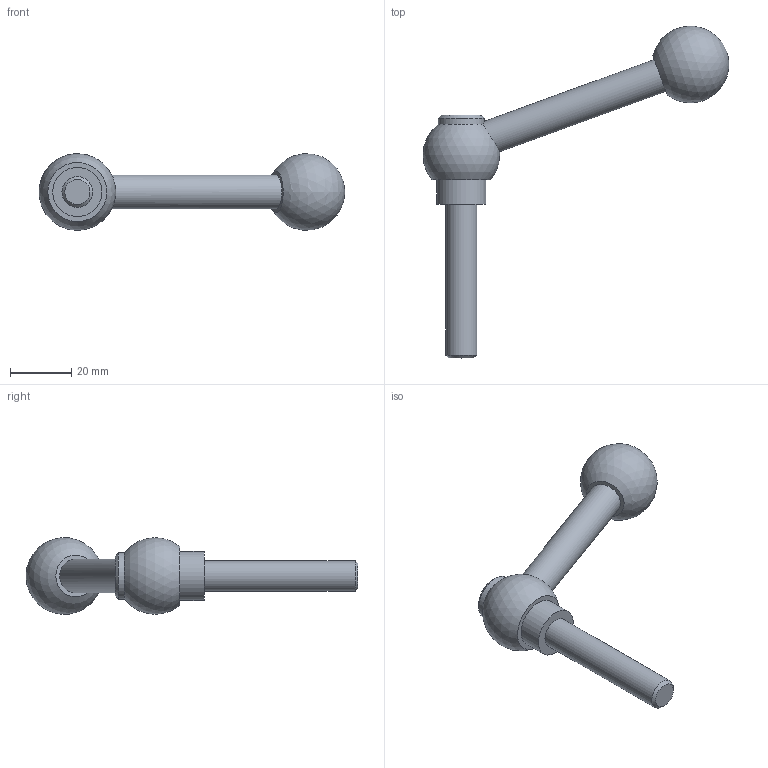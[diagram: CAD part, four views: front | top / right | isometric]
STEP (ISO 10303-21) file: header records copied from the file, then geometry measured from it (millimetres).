
FILE_DESCRIPTION( ( 'STEP AP203' ), '1' );
FILE_NAME( 'C:/Temp/Ganter_Step_05_03_2020/data/2_1/gn_6337_3/gn_6337_3_ms/gn_6337_3_ms_n/Adjustable clamping lever with bolt GN 6337.3-25-M10-50-N.stp', '2020-03-05T11:41:19', ( 'License CC BY-ND 4.0' ), ( 'CADENAS' ), ' ', 'PARTsolutions', ' ' );
FILE_SCHEMA( ( 'CONFIG_CONTROL_DESIGN' ) );
Length unit declared in the file: millimetre
Products named in the file (1): _Adjustable clamping lever with bolt GN 6337.3-25-M10-50-N
Bounding box: 99.42 x 107.98 x 25 mm (x, y, z)
Volume: 26821.3 mm3; surface area: 7723.9 mm2
Topology: 1 solids, 1 shells, 13 faces, 27 edges, 18 vertices
Faces by surface type: plane 5, cylinder 4, cone 2, sphere 2
Full cylindrical faces by diameter (mm): 10 x1, 11 x1, 15 x1, 16 x1
Entity records: 374 total; most frequent: CARTESIAN_POINT 112, DIRECTION 50, ORIENTED_EDGE 26, AXIS2_PLACEMENT_3D 25, EDGE_LOOP 23, FACE_OUTER_BOUND 18, ADVANCED_FACE 13, VERTEX_POINT 13
